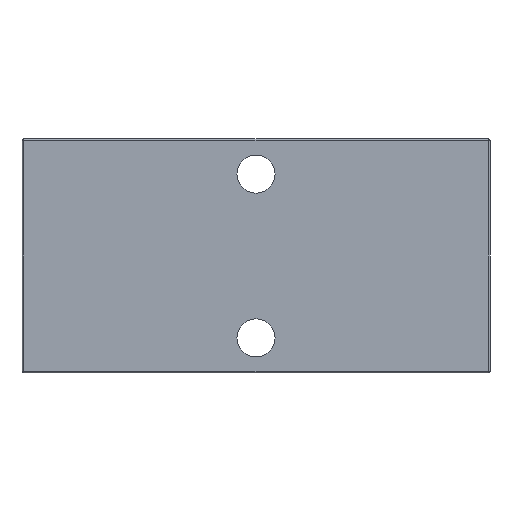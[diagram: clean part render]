
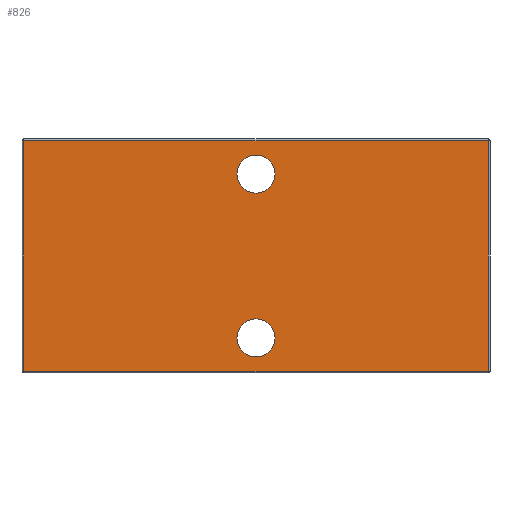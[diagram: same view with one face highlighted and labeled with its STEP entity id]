
A CAD part, front view. The second image highlights one B-rep face of the part: STEP entity #826.
In plain terms, the highlighted planar face has unit normal (0, -1, 0).
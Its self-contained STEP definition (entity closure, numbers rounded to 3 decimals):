
#43=FACE_BOUND('',#263,.T.);
#44=FACE_BOUND('',#264,.T.);
#54=PLANE('',#929);
#71=LINE('',#1350,#120);
#73=LINE('',#1353,#122);
#75=LINE('',#1356,#124);
#77=LINE('',#1359,#126);
#120=VECTOR('',#1087,10.);
#122=VECTOR('',#1091,10.);
#124=VECTOR('',#1095,10.);
#126=VECTOR('',#1099,10.);
#203=FACE_OUTER_BOUND('',#262,.T.);
#262=EDGE_LOOP('',(#651,#652,#653,#654));
#263=EDGE_LOOP('',(#655));
#264=EDGE_LOOP('',(#656));
#326=CIRCLE('',#930,3.25);
#327=CIRCLE('',#931,3.25);
#359=VERTEX_POINT('',#1271);
#362=VERTEX_POINT('',#1278);
#368=VERTEX_POINT('',#1295);
#371=VERTEX_POINT('',#1302);
#390=VERTEX_POINT('',#1383);
#391=VERTEX_POINT('',#1385);
#470=EDGE_CURVE('',#362,#371,#71,.T.);
#472=EDGE_CURVE('',#371,#368,#73,.T.);
#474=EDGE_CURVE('',#368,#359,#75,.T.);
#476=EDGE_CURVE('',#359,#362,#77,.T.);
#486=EDGE_CURVE('',#390,#390,#326,.T.);
#487=EDGE_CURVE('',#391,#391,#327,.T.);
#651=ORIENTED_EDGE('',*,*,#470,.F.);
#652=ORIENTED_EDGE('',*,*,#476,.F.);
#653=ORIENTED_EDGE('',*,*,#474,.F.);
#654=ORIENTED_EDGE('',*,*,#472,.F.);
#655=ORIENTED_EDGE('',*,*,#486,.T.);
#656=ORIENTED_EDGE('',*,*,#487,.T.);
#826=ADVANCED_FACE('',(#203,#43,#44),#54,.F.);
#929=AXIS2_PLACEMENT_3D('',#1382,#1127,#1128);
#930=AXIS2_PLACEMENT_3D('',#1384,#1129,#1130);
#931=AXIS2_PLACEMENT_3D('',#1386,#1131,#1132);
#1087=DIRECTION('',(-1.,0.,0.));
#1091=DIRECTION('',(0.,0.,1.));
#1095=DIRECTION('',(1.,0.,0.));
#1099=DIRECTION('',(0.,0.,-1.));
#1127=DIRECTION('center_axis',(0.,1.,0.));
#1128=DIRECTION('ref_axis',(0.,0.,1.));
#1129=DIRECTION('center_axis',(0.,1.,0.));
#1130=DIRECTION('ref_axis',(1.,0.,0.));
#1131=DIRECTION('center_axis',(0.,1.,0.));
#1132=DIRECTION('ref_axis',(1.,0.,0.));
#1271=CARTESIAN_POINT('',(39.7,-14.,19.7));
#1278=CARTESIAN_POINT('',(39.7,-14.,-19.7));
#1295=CARTESIAN_POINT('',(-39.7,-14.,19.7));
#1302=CARTESIAN_POINT('',(-39.7,-14.,-19.7));
#1350=CARTESIAN_POINT('',(20.,-14.,-19.7));
#1353=CARTESIAN_POINT('',(-39.7,-14.,-10.));
#1356=CARTESIAN_POINT('',(-20.,-14.,19.7));
#1359=CARTESIAN_POINT('',(39.7,-14.,10.));
#1382=CARTESIAN_POINT('Origin',(0.,-14.,0.));
#1383=CARTESIAN_POINT('',(-3.25,-14.,14.));
#1384=CARTESIAN_POINT('Origin',(0.,-14.,14.));
#1385=CARTESIAN_POINT('',(-3.25,-14.,-14.));
#1386=CARTESIAN_POINT('Origin',(0.,-14.,-14.));
